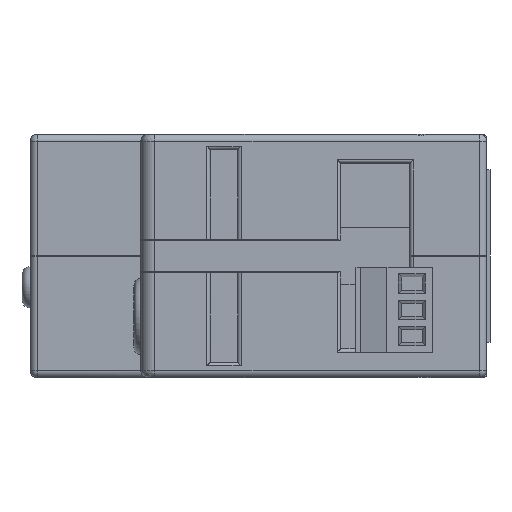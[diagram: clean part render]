
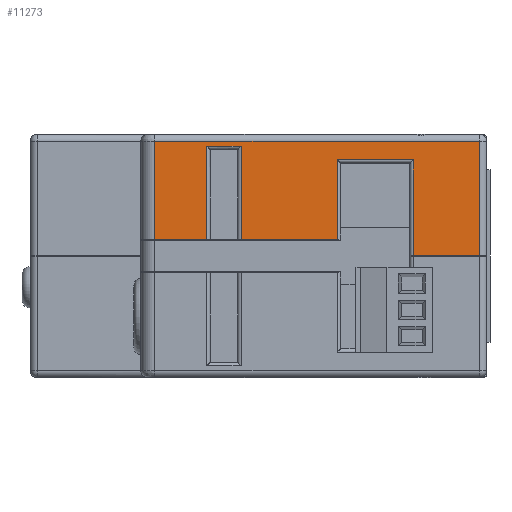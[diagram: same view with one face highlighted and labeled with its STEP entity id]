
A CAD part, left-side view. The second image highlights one B-rep face of the part: STEP entity #11273.
In plain terms, the highlighted planar face has unit normal (-1, 0, 0).
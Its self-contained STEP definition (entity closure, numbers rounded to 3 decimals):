
#86=FACE_BOUND('',#4080,.T.);
#475=LINE('',#16704,#1772);
#477=LINE('',#16710,#1774);
#480=LINE('',#16718,#1777);
#481=LINE('',#16720,#1778);
#482=LINE('',#16722,#1779);
#483=LINE('',#16724,#1780);
#484=LINE('',#16726,#1781);
#485=LINE('',#16727,#1782);
#486=LINE('',#16730,#1783);
#487=LINE('',#16732,#1784);
#488=LINE('',#16734,#1785);
#489=LINE('',#16735,#1786);
#1772=VECTOR('',#13347,10.);
#1774=VECTOR('',#13353,10.);
#1777=VECTOR('',#13362,10.);
#1778=VECTOR('',#13363,10.);
#1779=VECTOR('',#13364,10.);
#1780=VECTOR('',#13365,10.);
#1781=VECTOR('',#13366,10.);
#1782=VECTOR('',#13367,10.);
#1783=VECTOR('',#13368,10.);
#1784=VECTOR('',#13369,10.);
#1785=VECTOR('',#13370,10.);
#1786=VECTOR('',#13371,10.);
#2949=PLANE('',#12101);
#3434=FACE_OUTER_BOUND('',#4079,.T.);
#4079=EDGE_LOOP('',(#8078,#8079,#8080,#8081,#8082,#8083,#8084,#8085));
#4080=EDGE_LOOP('',(#8086,#8087,#8088,#8089));
#5186=VERTEX_POINT('',#16701);
#5187=VERTEX_POINT('',#16703);
#5189=VERTEX_POINT('',#16709);
#5191=VERTEX_POINT('',#16717);
#5192=VERTEX_POINT('',#16719);
#5193=VERTEX_POINT('',#16721);
#5194=VERTEX_POINT('',#16723);
#5195=VERTEX_POINT('',#16725);
#5196=VERTEX_POINT('',#16728);
#5197=VERTEX_POINT('',#16729);
#5198=VERTEX_POINT('',#16731);
#5199=VERTEX_POINT('',#16733);
#6307=EDGE_CURVE('',#5186,#5187,#475,.T.);
#6310=EDGE_CURVE('',#5189,#5187,#477,.T.);
#6315=EDGE_CURVE('',#5186,#5191,#480,.T.);
#6316=EDGE_CURVE('',#5191,#5192,#481,.T.);
#6317=EDGE_CURVE('',#5192,#5193,#482,.T.);
#6318=EDGE_CURVE('',#5194,#5193,#483,.T.);
#6319=EDGE_CURVE('',#5195,#5194,#484,.T.);
#6320=EDGE_CURVE('',#5189,#5195,#485,.T.);
#6321=EDGE_CURVE('',#5196,#5197,#486,.T.);
#6322=EDGE_CURVE('',#5198,#5196,#487,.T.);
#6323=EDGE_CURVE('',#5199,#5198,#488,.T.);
#6324=EDGE_CURVE('',#5197,#5199,#489,.T.);
#8078=ORIENTED_EDGE('',*,*,#6307,.F.);
#8079=ORIENTED_EDGE('',*,*,#6315,.T.);
#8080=ORIENTED_EDGE('',*,*,#6316,.T.);
#8081=ORIENTED_EDGE('',*,*,#6317,.T.);
#8082=ORIENTED_EDGE('',*,*,#6318,.F.);
#8083=ORIENTED_EDGE('',*,*,#6319,.F.);
#8084=ORIENTED_EDGE('',*,*,#6320,.F.);
#8085=ORIENTED_EDGE('',*,*,#6310,.T.);
#8086=ORIENTED_EDGE('',*,*,#6321,.F.);
#8087=ORIENTED_EDGE('',*,*,#6322,.F.);
#8088=ORIENTED_EDGE('',*,*,#6323,.F.);
#8089=ORIENTED_EDGE('',*,*,#6324,.F.);
#11273=ADVANCED_FACE('',(#3434,#86),#2949,.T.);
#12101=AXIS2_PLACEMENT_3D('',#16716,#13360,#13361);
#13347=DIRECTION('',(0.,0.,-1.));
#13353=DIRECTION('',(0.,-1.,0.));
#13360=DIRECTION('center_axis',(-1.,0.,0.));
#13361=DIRECTION('ref_axis',(0.,-1.,0.));
#13362=DIRECTION('',(0.,-1.,0.));
#13363=DIRECTION('',(0.,0.,-1.));
#13364=DIRECTION('',(0.,-1.,0.));
#13365=DIRECTION('',(0.,0.,-1.));
#13366=DIRECTION('',(0.,-1.,0.));
#13367=DIRECTION('',(0.,0.,1.));
#13368=DIRECTION('',(0.,-1.,0.));
#13369=DIRECTION('',(0.,0.,-1.));
#13370=DIRECTION('',(0.,1.,0.));
#13371=DIRECTION('',(0.,0.,1.));
#16701=CARTESIAN_POINT('',(0.,21.6,31.5));
#16703=CARTESIAN_POINT('',(0.,21.6,19.925));
#16704=CARTESIAN_POINT('',(0.,21.6,15.5));
#16709=CARTESIAN_POINT('',(0.,48.,19.925));
#16710=CARTESIAN_POINT('',(0.,35.8,19.925));
#16716=CARTESIAN_POINT('Origin',(0.,50.,0.));
#16717=CARTESIAN_POINT('',(0.,10.6,31.5));
#16718=CARTESIAN_POINT('',(0.,30.55,31.5));
#16719=CARTESIAN_POINT('',(0.,10.6,17.625));
#16720=CARTESIAN_POINT('',(0.,10.6,10.85));
#16721=CARTESIAN_POINT('',(0.,1.,17.625));
#16722=CARTESIAN_POINT('',(0.,41.725,17.625));
#16723=CARTESIAN_POINT('',(0.,1.,34.2));
#16724=CARTESIAN_POINT('',(0.,1.,0.));
#16725=CARTESIAN_POINT('',(0.,48.,34.2));
#16726=CARTESIAN_POINT('',(0.,40.001,34.2));
#16727=CARTESIAN_POINT('',(0.,48.,0.));
#16728=CARTESIAN_POINT('',(0.,40.5,20.));
#16729=CARTESIAN_POINT('',(0.,35.5,20.));
#16730=CARTESIAN_POINT('',(0.,45.,20.));
#16731=CARTESIAN_POINT('',(0.,40.5,33.5));
#16732=CARTESIAN_POINT('',(0.,40.5,16.5));
#16733=CARTESIAN_POINT('',(0.,35.5,33.5));
#16734=CARTESIAN_POINT('',(0.,43.,33.5));
#16735=CARTESIAN_POINT('',(0.,35.5,10.));
